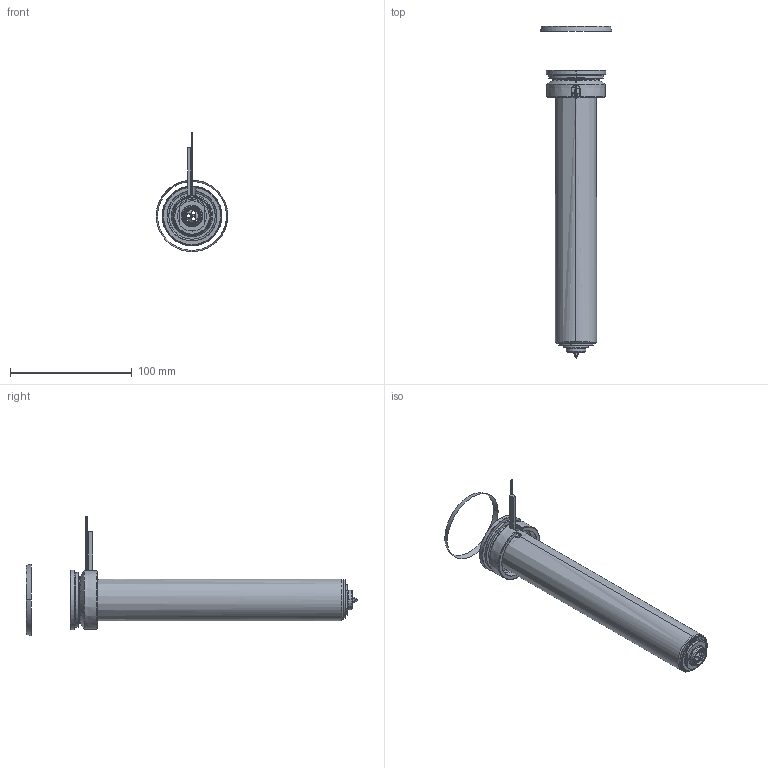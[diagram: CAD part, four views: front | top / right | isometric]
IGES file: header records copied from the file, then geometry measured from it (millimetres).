
Start section: SolidWorks IGES file using analytic representation for surfaces
Global section: file name: C:\Documents and Settings\ws-20\Desktop\TEM\UGEP5005-S-A-1 [Øf-0.80 ØC-12].IGS; native system: SolidWorks 2012; preprocessor: SolidWorks 2012; author: ws-20; date: 120426.095918; units: millimetre
Bounding box: 58.79 x 272.24 x 98.01 mm (x, y, z)
Surface area: 88778.4 mm2 (no closed solid volume)
Topology: 0 solids, 0 shells, 124 faces, 2374 edges, 2374 vertices
Faces by surface type: revolution 80, bspline 44
